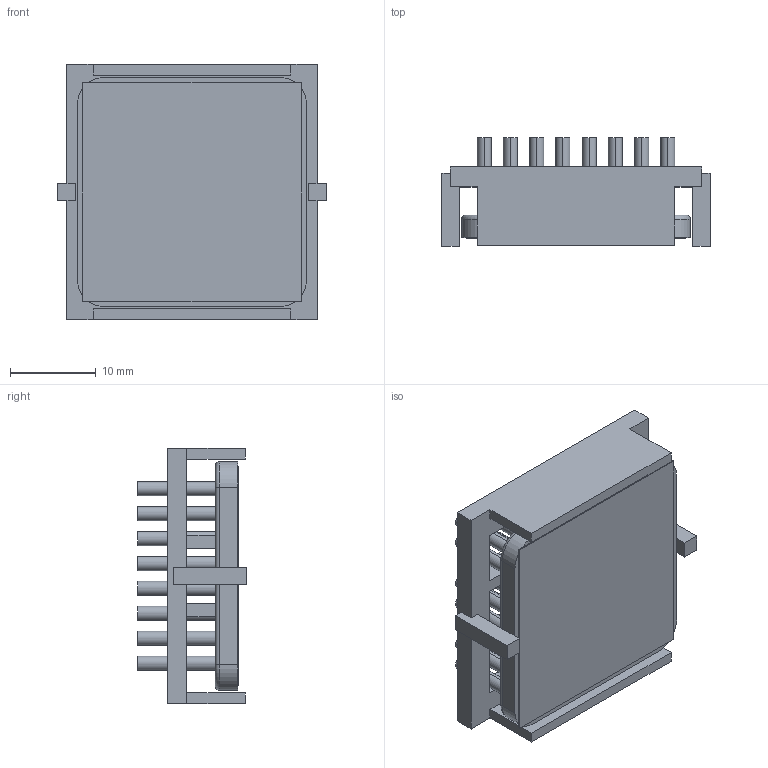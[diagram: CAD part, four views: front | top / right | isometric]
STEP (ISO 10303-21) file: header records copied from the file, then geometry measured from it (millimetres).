
FILE_DESCRIPTION (( 'STEP AP214' ), '1' );
FILE_NAME ('INM27002-12P-2.6O.STEP', '2023-02-17T20:23:52', ( '' ), ( '' ), 'SwSTEP 2.0', 'SolidWorks 2020', '' );
FILE_SCHEMA (( 'AUTOMOTIVE_DESIGN' ));
Length unit declared in the file: inch
Products named in the file (1): INM27002-12P-2.6O
Bounding box: 31.2 x 12.6 x 29.7 mm (x, y, z)
Volume: 4336.2 mm3; surface area: 7774.1 mm2
Topology: 3 solids, 3 shells, 246 faces, 544 edges, 360 vertices
Faces by surface type: plane 122, cylinder 120, torus 4
Entity records: 10132 total; most frequent: DIRECTION 1282, CARTESIAN_POINT 1151, ORIENTED_EDGE 1088, EDGE_CURVE 544, AXIS2_PLACEMENT_3D 491, VERTEX_POINT 360, EDGE_LOOP 304, VECTOR 300
